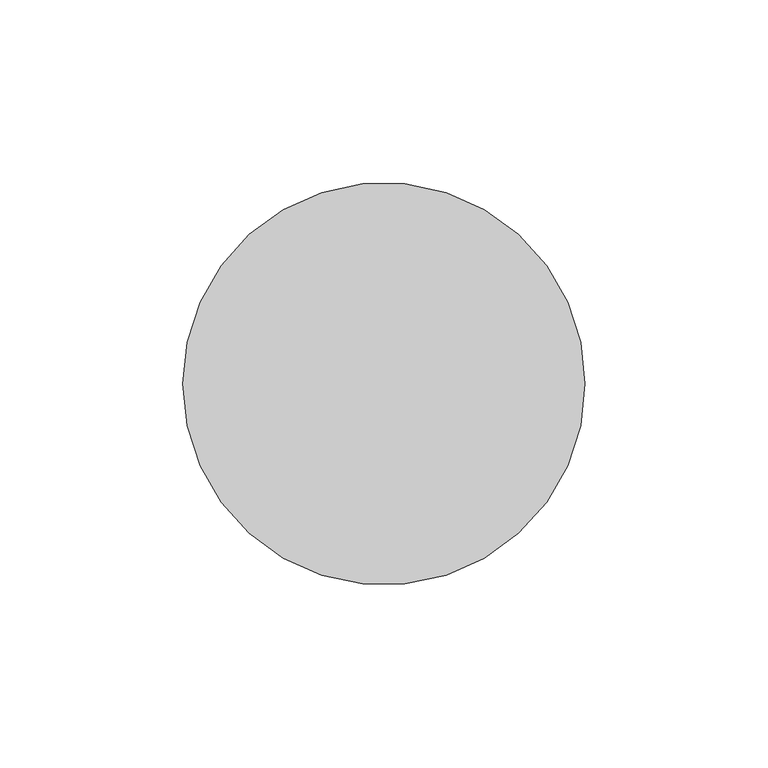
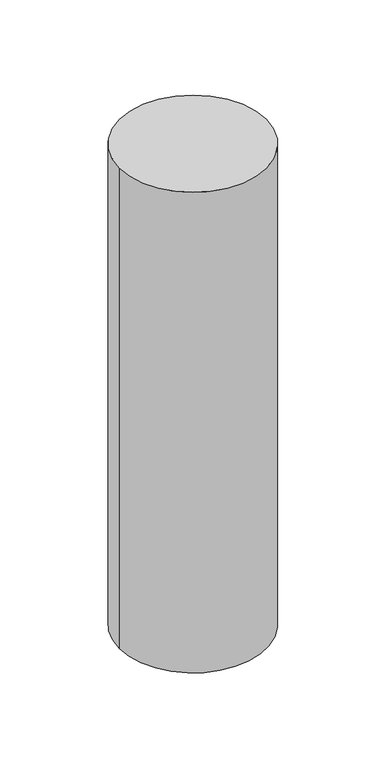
"""IFC4 building model written with IfcOpenShell, lengths in millimetres: proxy geometry, Building Materials_Other_Accessory_LEG_for ATLANTIS : LEG_Ø110."""

from ifc_helpers import new_model, si_unit, point, origin, origin_with_axes, origin_2d, place, context, project, spatial, circle_curve, trimmed, segment, composite_curve, outline, extrude, source, transform, mapped, element, save


def generic_models_0d661f09(model_context):
    return source(origin(), model_context, "Body", "SweptSolid", [
        extrude(outline(composite_curve([segment(trimmed(circle_curve(origin_2d(), 55.0), [point((-55.0, 0.0))], [point((55.0, 0.0))], False, "CARTESIAN"), True, "CONTINUOUS"), segment(trimmed(circle_curve(origin_2d(), 55.0), [point((55.0, 0.0))], [point((-55.0, 0.0))], False, "CARTESIAN"), True, "CONTINUOUS")], self_intersect=False)), origin_with_axes(), (0.0, 0.0, 1.0), 380.0),
    ])


if __name__ == "__main__":
    model = new_model("IFC4")
    model_context = context("Model", 3, world=origin())
    ifc_project = project(units=[si_unit("LENGTHUNIT", "METRE", prefix="MILLI")], contexts=[model_context])
    site = spatial("IfcSite", under=ifc_project)
    building = spatial("IfcBuilding", under=site)
    placement = place(None, origin())
    generic_models_shape = generic_models_0d661f09(model_context)
    element("IfcBuildingElementProxy", 1, Name="Building Materials_Other_Accessory_LEG_for ATLANTIS : LEG_Ø110", ObjectType="Building Materials_Other_Accessory_LEG_for ATLANTIS : LEG_Ø110", at=placement, inside=building, context=model_context, shape_type="MappedRepresentation", body=[
        mapped(generic_models_shape, transform((0.0, 0.0, 0.0), x_axis=(1.0, 0.0, 0.0), y_axis=(0.0, 1.0, 0.0), z_axis=(0.0, 0.0, 1.0))),
    ])
    save(model, "model.ifc")
